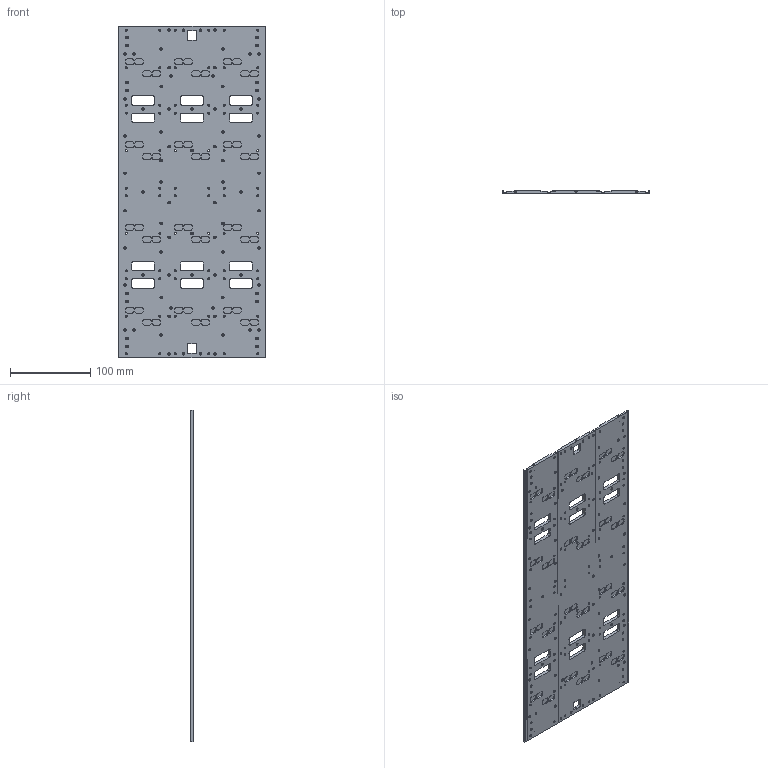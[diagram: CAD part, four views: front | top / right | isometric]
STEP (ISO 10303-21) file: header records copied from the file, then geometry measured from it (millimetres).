
FILE_DESCRIPTION(/* description */ (''),/* implementation_level */ '2;1');
FILE_NAME(/* name */ 'CMS.BTL.00000092.stp',/* time_stamp */ '2023-06-15T09:15:09+02:00',/* author */ (''),/* organization */ (''),/* preprocessor_version */ 'ST-DEVELOPER v18.102',/* originating_system */ 'SIEMENS PLM Software NX 2000',/* authorisation */ '');
FILE_SCHEMA (('AP203_CONFIGURATION_CONTROLLED_3D_DESIGN_OF_MECHANICAL_PARTS_AND_ASSEMBLIES_MIM_LF { 1 0 10303 403 2 1 2}'));
Length unit declared in the file: millimetre
Products named in the file (1): turc334C1158a8qf
Bounding box: 184 x 4 x 413.3 mm (x, y, z)
Volume: 234438.9 mm3; surface area: 165964.9 mm2
Topology: 1 solids, 1 shells, 1124 faces, 3019 edges, 2021 vertices
Faces by surface type: cylinder 518, plane 422, cone 184
Full cylindrical faces by diameter (mm): 2.05 x90, 2.5 x78, 4 x2, 6 x72
Entity records: 32886 total; most frequent: DIRECTION 5846, CARTESIAN_POINT 5557, ORIENTED_EDGE 4856, EDGE_CURVE 2428, AXIS2_PLACEMENT_3D 2341, EDGE_LOOP 2030, VERTEX_POINT 1860, FACE_BOUND 1422
